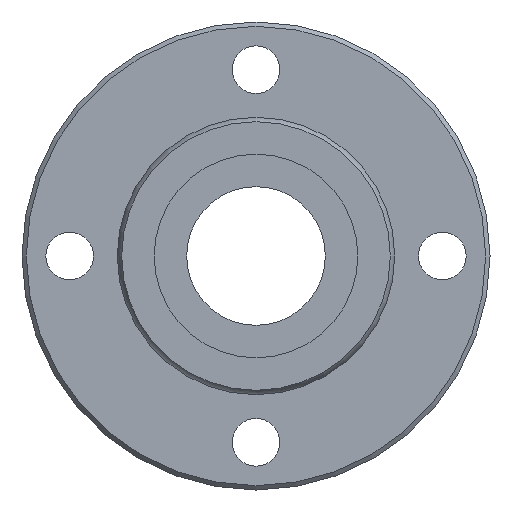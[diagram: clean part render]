
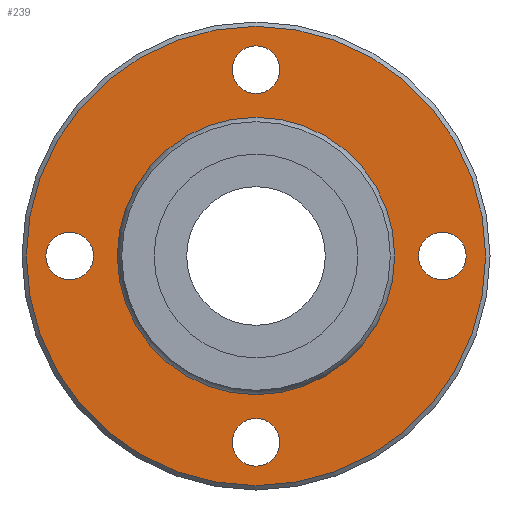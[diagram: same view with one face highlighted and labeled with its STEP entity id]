
A CAD part, left-side view. The second image highlights one B-rep face of the part: STEP entity #239.
In plain terms, the highlighted planar face has unit normal (-1, 0, 0).
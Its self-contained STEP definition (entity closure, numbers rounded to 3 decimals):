
#164=CARTESIAN_POINT('',(35.,0.,26.5));
#165=VERTEX_POINT('',#164);
#166=CARTESIAN_POINT('',(35.,0.0,0.0));
#167=DIRECTION('',(1.0,0.0,0.0));
#168=DIRECTION('',(0.0,0.0,-1.0));
#169=AXIS2_PLACEMENT_3D('',#166,#167,#168);
#170=CIRCLE('',#169,26.5);
#171=EDGE_CURVE('',#165,#165,#170,.T.);
#176=CARTESIAN_POINT('',(35.,0.0,21.387));
#177=DIRECTION('',(-1.0,0.0,0.0));
#178=DIRECTION('',(0.0,0.0,1.0));
#179=AXIS2_PLACEMENT_3D('',#176,#177,#178);
#180=PLANE('',#179);
#181=ORIENTED_EDGE('',*,*,#171,.F.);
#182=EDGE_LOOP('',(#181));
#183=FACE_OUTER_BOUND('',#182,.T.);
#184=CARTESIAN_POINT('',(35.,0.0,15.773));
#185=VERTEX_POINT('',#184);
#186=CARTESIAN_POINT('',(35.,0.0,0.0));
#187=DIRECTION('',(-1.0,0.0,0.0));
#188=DIRECTION('',(0.0,0.0,1.0));
#189=AXIS2_PLACEMENT_3D('',#186,#187,#188);
#190=CIRCLE('',#189,15.773);
#191=EDGE_CURVE('',#185,#185,#190,.T.);
#192=ORIENTED_EDGE('',*,*,#191,.F.);
#193=EDGE_LOOP('',(#192));
#194=FACE_BOUND('',#193,.T.);
#195=CARTESIAN_POINT('',(35.0,-24.25,0.));
#196=VERTEX_POINT('',#195);
#197=CARTESIAN_POINT('',(35.0,-21.5,0.));
#198=DIRECTION('',(1.0,0.0,0.0));
#199=DIRECTION('',(0.0,1.0,0.0));
#200=AXIS2_PLACEMENT_3D('',#197,#198,#199);
#201=CIRCLE('',#200,2.75);
#202=EDGE_CURVE('',#196,#196,#201,.T.);
#203=ORIENTED_EDGE('',*,*,#202,.T.);
#204=EDGE_LOOP('',(#203));
#205=FACE_BOUND('',#204,.T.);
#206=CARTESIAN_POINT('',(35.0,18.75,0.));
#207=VERTEX_POINT('',#206);
#208=CARTESIAN_POINT('',(35.0,21.5,0.));
#209=DIRECTION('',(1.0,0.0,0.0));
#210=DIRECTION('',(0.0,1.0,0.0));
#211=AXIS2_PLACEMENT_3D('',#208,#209,#210);
#212=CIRCLE('',#211,2.75);
#213=EDGE_CURVE('',#207,#207,#212,.T.);
#214=ORIENTED_EDGE('',*,*,#213,.T.);
#215=EDGE_LOOP('',(#214));
#216=FACE_BOUND('',#215,.T.);
#217=CARTESIAN_POINT('',(35.0,-2.75,21.5));
#218=VERTEX_POINT('',#217);
#219=CARTESIAN_POINT('',(35.0,0.,21.5));
#220=DIRECTION('',(1.0,0.0,0.0));
#221=DIRECTION('',(0.0,1.0,0.0));
#222=AXIS2_PLACEMENT_3D('',#219,#220,#221);
#223=CIRCLE('',#222,2.75);
#224=EDGE_CURVE('',#218,#218,#223,.T.);
#225=ORIENTED_EDGE('',*,*,#224,.T.);
#226=EDGE_LOOP('',(#225));
#227=FACE_BOUND('',#226,.T.);
#228=CARTESIAN_POINT('',(35.0,-2.75,-21.5));
#229=VERTEX_POINT('',#228);
#230=CARTESIAN_POINT('',(35.0,0.,-21.5));
#231=DIRECTION('',(1.0,0.0,0.0));
#232=DIRECTION('',(0.0,1.0,0.0));
#233=AXIS2_PLACEMENT_3D('',#230,#231,#232);
#234=CIRCLE('',#233,2.75);
#235=EDGE_CURVE('',#229,#229,#234,.T.);
#236=ORIENTED_EDGE('',*,*,#235,.T.);
#237=EDGE_LOOP('',(#236));
#238=FACE_BOUND('',#237,.T.);
#239=ADVANCED_FACE('',(#183,#194,#205,#216,#227,#238),#180,.T.);
